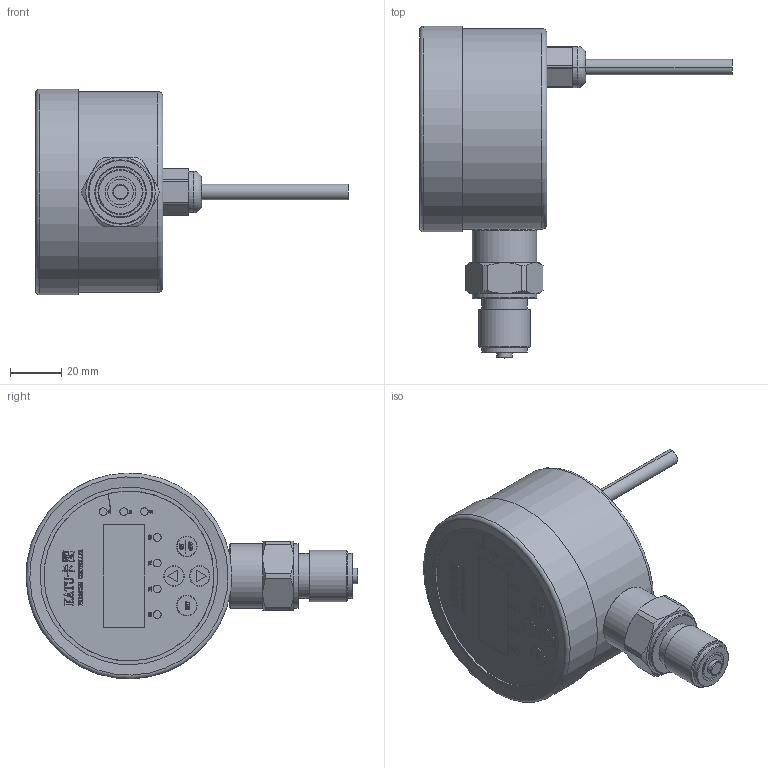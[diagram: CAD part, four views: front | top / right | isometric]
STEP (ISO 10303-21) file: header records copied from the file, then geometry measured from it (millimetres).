
FILE_DESCRIPTION( (''), '2;1');
FILE_NAME( 'PMKB_80mm_radial.step', '2024-12-27T14:11:10+08:00', (''), (''), '', '', '');
FILE_SCHEMA (('AUTOMOTIVE_DESIGN { 1 0 10303 214 3 1 1 1 }'));
Length unit declared in the file: millimetre
Products named in the file (1): PMKB 80mm_radial
Bounding box: 121.43 x 128.99 x 79.96 mm (x, y, z)
Volume: 261929.4 mm3; surface area: 31667.4 mm2
Topology: 7 solids, 8 shells, 1664 faces, 4589 edges, 3050 vertices
Faces by surface type: plane 1101, bspline 485, cylinder 44, cone 19, torus 15
Full cylindrical faces by diameter (mm): 3 x7, 6 x1, 10 x1, 12 x1, 17.5 x2, 20 x1, 25 x2, 66 x1, 78 x2, 80 x1
Entity records: 74916 total; most frequent: CARTESIAN_POINT 35824, ORIENTED_EDGE 9106, DIRECTION 6066, EDGE_CURVE 4553, LINE 3408, VECTOR 3408, VERTEX_POINT 3045, EDGE_LOOP 1806
